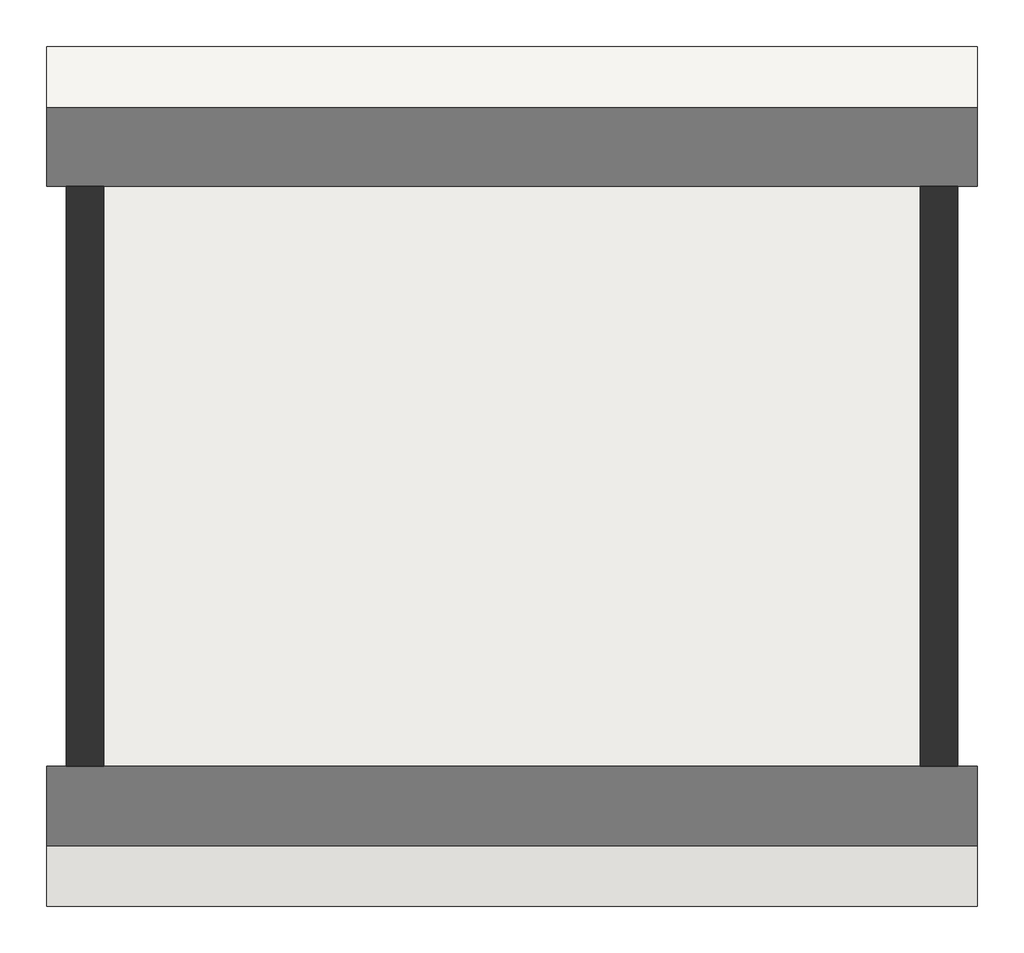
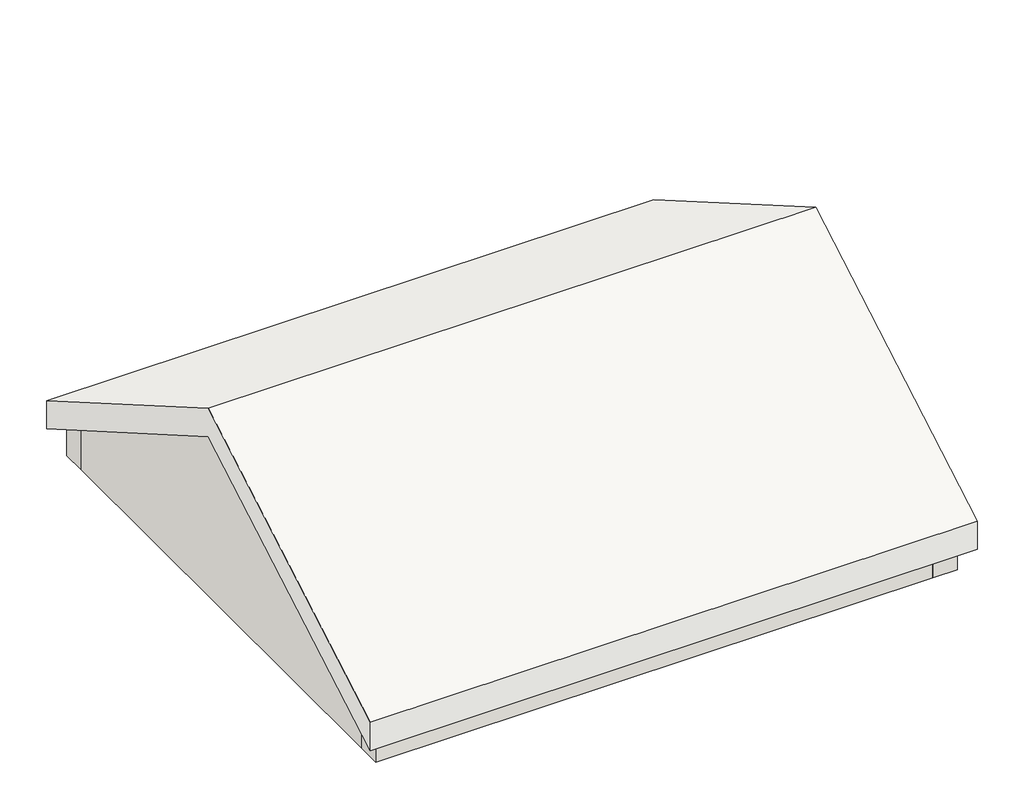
# One storey: 4 walls, 1 roof, 1 slab.
"""IFC4 building model written with IfcOpenShell, lengths in millimetres."""

from ifc_helpers import new_model, si_unit, frame, origin, place, context, project, spatial, polyline, outline, extrude, faceted_brep, element, save

model = new_model("IFC4")

# Units and contexts
model_context = context("Model", 3, world=origin())
ifc_project = project(units=[si_unit("LENGTHUNIT", "METRE", prefix="MILLI")], contexts=[model_context])

# Site, building, storey
site = spatial("IfcSite", under=ifc_project)
building = spatial("IfcBuilding", under=site)
storey = spatial("IfcBuildingStorey", under=building, Name="Combles perdus", Elevation=5700.0)

# Roof
placement = place(None, origin())
element("IfcRoof", 1, ObjectType="Générique  - 400 mm", at=placement, inside=storey, context=model_context, shape_type="Brep", body=[
    faceted_brep([(-2495.7482408, 7854.1422201, 6084.5299462), (6914.2517592, 7854.1422201, 6084.5299462), (6914.2517592, 3509.1422201, 8593.1168658), (-1915.7482408, 3509.1422201, 8593.1168658), (-2295.7482408, 3509.1422201, 8593.1168658), (-2495.7482408, 3509.1422201, 8593.1168658), (6914.2517592, -835.8577799, 6084.5299462), (-2495.7482408, -835.8577799, 6084.5299462), (6914.2517592, 7854.1422201, 6546.4101615), (-2495.7482408, 7854.1422201, 6546.4101615), (-2495.7482408, 3509.1422201, 9054.9970811), (6914.2517592, 3509.1422201, 9054.9970811), (6914.2517592, -835.8577799, 6546.4101615), (-2495.7482408, -835.8577799, 6546.4101615)], [[[0, 1, 2, 3, 4, 5]], [[2, 6, 7, 5, 4, 3]], [[8, 9, 10, 11]], [[12, 11, 10, 13]], [[6, 12, 13, 7]], [[0, 9, 8, 1]], [[13, 10, 9, 0, 5, 7]], [[8, 11, 12, 6, 2, 1]]]),
])

# Slab
element("IfcSlab", 2, ObjectType="Alliance soleil Sol Etage", at=placement, inside=storey, context=model_context, shape_type="SweptSolid", body=[
    extrude(outline(polyline([(-1915.7482408, 7274.1422201), (6334.2517592, 7274.1422201), (6334.2517592, -255.8577799), (-1915.7482408, -255.8577799), (-1915.7482408, 7274.1422201)])), frame((0.0, 0.0, 5500.0), z_axis=(0.0, 0.0, 1.0), x_axis=(1.0, 0.0, 0.0)), (0.0, 0.0, 1.0), 200.0),
])

# Walls
element("IfcWall", 3, ObjectType="Alliance soleil Mur extérieur", at=placement, inside=storey, context=model_context, shape_type="Brep", body=[
    faceted_brep([(6714.2517592, 7654.1422201, 5700.0), (-2295.7482408, 7654.1422201, 5700.0), (-2295.7482408, 7654.1422201, 6200.0), (6714.2517592, 7654.1422201, 6200.0), (6714.2517592, 7274.1422201, 5700.0), (6714.2517592, 7274.1422201, 6419.3931023), (6334.2517592, 7274.1422201, 6419.3931023), (-1915.7482408, 7274.1422201, 6419.3931023), (-2295.7482408, 7274.1422201, 6419.3931023), (-2295.7482408, 7274.1422201, 5700.0), (-1915.7482408, 7274.1422201, 5700.0), (6334.2517592, 7274.1422201, 5700.0)], [[[0, 1, 2, 3]], [[4, 5, 6, 7, 8, 9, 10, 11]], [[1, 0, 4, 11, 10, 9]], [[0, 3, 5, 4]], [[3, 2, 8, 7, 6, 5]], [[2, 1, 9, 8]]]),
])
element("IfcWall", 4, ObjectType="Alliance soleil Mur extérieur", at=placement, inside=storey, context=model_context, shape_type="Brep", body=[
    faceted_brep([(6714.2517592, -635.8577799, 5700.0), (6714.2517592, 7274.1422201, 5700.0), (6714.2517592, 7274.1422201, 6419.3931023), (6714.2517592, 3509.1422201, 8593.1168658), (6714.2517592, -635.8577799, 6200.0), (6334.2517592, -635.8577799, 5700.0), (6334.2517592, -635.8577799, 6200.0), (6334.2517592, -255.8577799, 6419.3931023), (6334.2517592, 3509.1422201, 8593.1168658), (6334.2517592, 7274.1422201, 6419.3931023), (6334.2517592, 7274.1422201, 5700.0), (6334.2517592, -255.8577799, 5700.0)], [[[0, 1, 2, 3, 4]], [[5, 6, 7, 8, 9, 10, 11]], [[1, 0, 5, 11, 10]], [[2, 1, 10, 9]], [[0, 4, 6, 5]], [[4, 3, 8, 7, 6]], [[3, 2, 9, 8]]]),
])
element("IfcWall", 5, ObjectType="Alliance soleil Mur extérieur", at=placement, inside=storey, context=model_context, shape_type="Brep", body=[
    faceted_brep([(-2295.7482408, -635.8577799, 5700.0), (6334.2517592, -635.8577799, 5700.0), (6334.2517592, -635.8577799, 6200.0), (-2295.7482408, -635.8577799, 6200.0), (-2295.7482408, -255.8577799, 5700.0), (-2295.7482408, -255.8577799, 6419.3931023), (-1915.7482408, -255.8577799, 6419.3931023), (6334.2517592, -255.8577799, 6419.3931023), (6334.2517592, -255.8577799, 5700.0), (-1915.7482408, -255.8577799, 5700.0)], [[[0, 1, 2, 3]], [[4, 5, 6, 7, 8, 9]], [[1, 0, 4, 9, 8]], [[2, 1, 8, 7]], [[3, 2, 7, 6, 5]], [[0, 3, 5, 4]]]),
])
element("IfcWall", 6, ObjectType="Alliance soleil Mur extérieur", at=placement, inside=storey, context=model_context, shape_type="SweptSolid", body=[
    extrude(outline(polyline([(7274.1422201, 5700.0), (-255.8577799, 5700.0), (-255.8577799, 6419.3931023), (3509.1422201, 8593.1168658), (7274.1422201, 6419.3931023), (7274.1422201, 5700.0)])), frame((-2295.7482408, 0.0, 0.0), z_axis=(1.0, 0.0, 0.0), x_axis=(0.0, 1.0, 0.0)), (0.0, 0.0, 1.0), 380.0),
])

save(model, "model.ifc")
